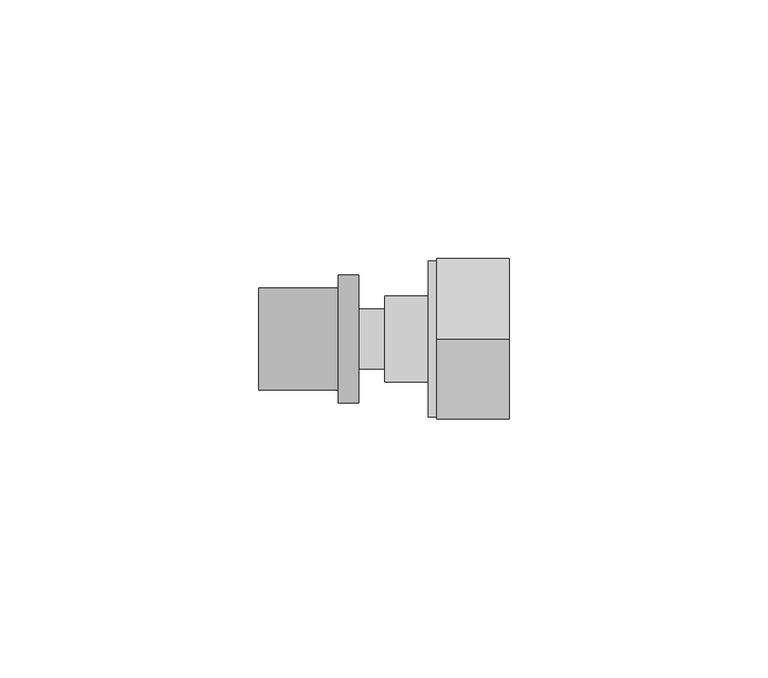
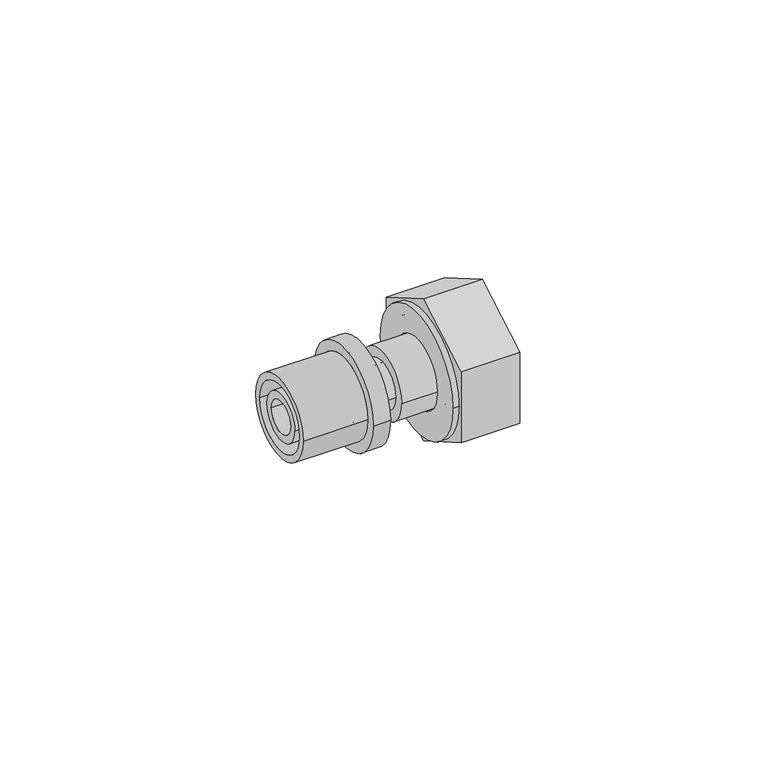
"""IFC4 building model written with IfcOpenShell, lengths in millimetres: pipe fitting geometry, FASTLOC_Adapter with union nut EX+ : FSL A union nut EX+ AT."""

from ifc_helpers import new_model, si_unit, point, frame, origin, origin_2d, place, context, project, spatial, polyline, circle_curve, trimmed, segment, composite_curve, outline, extrude, source, transform, mapped, element, save
from ifc_brep_helpers import plane_surface, cylinder_surface, revolved_surface, advanced_brep


def pipe_fitting_8e6c19f7(model_context):
    return source(origin(), model_context, "Body", "SolidModel", [
        advanced_brep(
        [(-9.0, -12.35, 0.0), (-9.0, 12.35, 0.0), (-5.0, 12.35, 0.0), (-5.0, -12.35, 0.0), (-24.3, -9.85, 0.0), (-24.3, 9.85, 0.0), (-9.0, 9.85, 0.0), (-9.0, -9.85, 0.0), (-5.0, -8.15, 0.0), (-5.0, 8.15, 0.0), (-24.3, 8.15, 0.0), (-24.3, -8.15, 0.0)],
        [
            (0, 1, circle_curve(frame((-9.0, 0.0, 0.0), z_axis=(1.0, 0.0, 0.0), x_axis=(0.0, 1.0, 0.0)), 12.35)),
            (1, 2),
            (2, 3, circle_curve(frame((-5.0, 0.0, 0.0), z_axis=(-1.0, 0.0, 0.0), x_axis=(0.0, 1.0, 0.0)), 12.35)),
            (3, 0),
            (4, 5, circle_curve(frame((-24.3, 0.0, 0.0), z_axis=(1.0, 0.0, 0.0), x_axis=(0.0, 1.0, 0.0)), 9.85)),
            (5, 6),
            (6, 7, circle_curve(frame((-9.0, 0.0, 0.0), z_axis=(-1.0, 0.0, 0.0), x_axis=(0.0, 1.0, 0.0)), 9.85)),
            (7, 4),
            (8, 9, circle_curve(frame((-5.0, 0.0, 0.0), z_axis=(1.0, 0.0, 0.0), x_axis=(0.0, 1.0, 0.0)), 8.15)),
            (9, 10),
            (10, 11, circle_curve(frame((-24.3, 0.0, 0.0), z_axis=(-1.0, 0.0, 0.0), x_axis=(0.0, 1.0, 0.0)), 8.15)),
            (11, 8),
            (1, 0, circle_curve(frame((-9.0, 0.0, 0.0), z_axis=(1.0, 0.0, 0.0), x_axis=(0.0, -1.0, 0.0)), 12.35)),
            (3, 2, circle_curve(frame((-5.0, 0.0, 0.0), z_axis=(-1.0, 0.0, 0.0), x_axis=(0.0, -1.0, 0.0)), 12.35)),
            (6, 7, circle_curve(frame((-9.0, 0.0, 0.0), z_axis=(1.0, 0.0, 0.0), x_axis=(0.0, -1.0, 0.0)), 9.85)),
            (5, 4, circle_curve(frame((-24.3, 0.0, 0.0), z_axis=(1.0, 0.0, 0.0), x_axis=(0.0, -1.0, 0.0)), 9.85)),
            (10, 11, circle_curve(frame((-24.3, 0.0, 0.0), z_axis=(1.0, 0.0, 0.0), x_axis=(0.0, -1.0, 0.0)), 8.15)),
            (9, 8, circle_curve(frame((-5.0, 0.0, 0.0), z_axis=(1.0, 0.0, 0.0), x_axis=(0.0, -1.0, 0.0)), 8.15)),
        ],
        [
            cylinder_surface(frame((-5.0, 0.0, 0.0), z_axis=(-1.0, 0.0, 0.0), x_axis=(0.0, 1.0, 0.0)), 12.35),
            cylinder_surface(frame((-5.0, 0.0, 0.0), z_axis=(-1.0, 0.0, 0.0), x_axis=(0.0, 1.0, 0.0)), 9.85),
            revolved_surface(polyline([(-24.3, 8.15, 0.0), (-5.0, 8.15, 0.0)]), (-5.0, 0.0, 0.0), (-1.0, 0.0, 0.0)),
            cylinder_surface(frame((-5.0, 0.0, 0.0), z_axis=(-1.0, 0.0, 0.0), x_axis=(0.0, -1.0, 0.0)), 12.35),
            plane_surface(frame((-9.0, 0.0, 0.0), z_axis=(-1.0, 0.0, 0.0), x_axis=(0.0, -1.0, 0.0))),
            cylinder_surface(frame((-5.0, 0.0, 0.0), z_axis=(-1.0, 0.0, 0.0), x_axis=(0.0, -1.0, 0.0)), 9.85),
            plane_surface(frame((-24.3, 0.0, 0.0), z_axis=(-1.0, 0.0, 0.0), x_axis=(0.0, -1.0, 0.0))),
            revolved_surface(polyline([(-24.3, -8.15, 0.0), (-5.0, -8.15, 0.0)]), (-5.0, 0.0, 0.0), (-1.0, 0.0, 0.0)),
            plane_surface(frame((-5.0, 0.0, 0.0), z_axis=(1.0, 0.0, 0.0), x_axis=(0.0, -1.0, 0.0))),
        ],
        [
            (0, [[1, 2, 3, 4]]),
            (1, [[5, 6, 7, 8]]),
            (2, [[9, 10, 11, 12]]),
            (3, [[13, -4, 14, -2]]),
            (4, [[-13, -1], [15, -7]]),
            (5, [[16, -8, -15, -6]]),
            (6, [[-16, -5], [17, -11]]),
            (7, [[18, -12, -17, -10]]),
            (8, [[-14, -3], [-18, -9]]),
        ],
    ),
        advanced_brep(
        [(-9.0, 5.8, 0.0), (-9.0, -5.8, 0.0), (-24.0, -5.8, 0.0), (-24.0, 5.8, 0.0), (-6.3, 6.9, 0.0), (-6.3, -6.9, 0.0), (-9.0, -6.9, 0.0), (-9.0, 6.9, 0.0), (0.0, 5.8, 0.0), (0.0, -5.8, 0.0), (-6.3, -5.8, 0.0), (-6.3, 5.8, 0.0), (-24.0, 3.95, 0.0), (-24.0, -3.95, 0.0), (0.0, -3.95, 0.0), (0.0, 3.95, 0.0)],
        [
            (0, 1, circle_curve(frame((-9.0, 0.0, 0.0), z_axis=(-1.0, 0.0, 0.0), x_axis=(0.0, -1.0, 0.0)), 5.8)),
            (1, 2),
            (2, 3, circle_curve(frame((-24.0, 0.0, 0.0), z_axis=(1.0, 0.0, 0.0), x_axis=(0.0, -1.0, 0.0)), 5.8)),
            (3, 0),
            (4, 5, circle_curve(frame((-6.3, 0.0, 0.0), z_axis=(-1.0, 0.0, 0.0), x_axis=(0.0, -1.0, 0.0)), 6.9)),
            (5, 6),
            (6, 7, circle_curve(frame((-9.0, 0.0, 0.0), z_axis=(1.0, 0.0, 0.0), x_axis=(0.0, -1.0, 0.0)), 6.9)),
            (7, 4),
            (8, 9, circle_curve(frame((0.0, 0.0, 0.0), z_axis=(-1.0, 0.0, 0.0), x_axis=(0.0, -1.0, 0.0)), 5.8)),
            (9, 10),
            (10, 11, circle_curve(frame((-6.3, 0.0, 0.0), z_axis=(1.0, 0.0, 0.0), x_axis=(0.0, -1.0, 0.0)), 5.8)),
            (11, 8),
            (12, 13, circle_curve(frame((-24.0, 0.0, 0.0), z_axis=(-1.0, 0.0, 0.0), x_axis=(0.0, -1.0, 0.0)), 3.95)),
            (13, 14),
            (14, 15, circle_curve(frame((0.0, 0.0, 0.0), z_axis=(1.0, 0.0, 0.0), x_axis=(0.0, -1.0, 0.0)), 3.95)),
            (15, 12),
            (2, 3, circle_curve(frame((-24.0, 0.0, 0.0), z_axis=(-1.0, 0.0, 0.0), x_axis=(0.0, 1.0, 0.0)), 5.8)),
            (12, 13, circle_curve(frame((-24.0, 0.0, 0.0), z_axis=(1.0, 0.0, 0.0), x_axis=(0.0, 1.0, 0.0)), 3.95)),
            (1, 0, circle_curve(frame((-9.0, 0.0, 0.0), z_axis=(-1.0, 0.0, 0.0), x_axis=(0.0, 1.0, 0.0)), 5.8)),
            (6, 7, circle_curve(frame((-9.0, 0.0, 0.0), z_axis=(-1.0, 0.0, 0.0), x_axis=(0.0, 1.0, 0.0)), 6.9)),
            (5, 4, circle_curve(frame((-6.3, 0.0, 0.0), z_axis=(-1.0, 0.0, 0.0), x_axis=(0.0, 1.0, 0.0)), 6.9)),
            (10, 11, circle_curve(frame((-6.3, 0.0, 0.0), z_axis=(-1.0, 0.0, 0.0), x_axis=(0.0, 1.0, 0.0)), 5.8)),
            (9, 8, circle_curve(frame((0.0, 0.0, 0.0), z_axis=(-1.0, 0.0, 0.0), x_axis=(0.0, 1.0, 0.0)), 5.8)),
            (14, 15, circle_curve(frame((0.0, 0.0, 0.0), z_axis=(-1.0, 0.0, 0.0), x_axis=(0.0, 1.0, 0.0)), 3.95)),
        ],
        [
            cylinder_surface(frame((0.0, 0.0, 0.0), z_axis=(1.0, 0.0, 0.0), x_axis=(0.0, -1.0, 0.0)), 5.8),
            cylinder_surface(frame((0.0, 0.0, 0.0), z_axis=(1.0, 0.0, 0.0), x_axis=(0.0, -1.0, 0.0)), 6.9),
            revolved_surface(polyline([(0.0, -3.95, 0.0), (-24.0, -3.95, 0.0)]), (0.0, 0.0, 0.0), (1.0, 0.0, 0.0)),
            plane_surface(frame((-24.0, 0.0, 0.0), z_axis=(-1.0, 0.0, 0.0), x_axis=(0.0, 1.0, 0.0))),
            cylinder_surface(frame((0.0, 0.0, 0.0), z_axis=(1.0, 0.0, 0.0), x_axis=(0.0, 1.0, 0.0)), 5.8),
            plane_surface(frame((-9.0, 0.0, 0.0), z_axis=(-1.0, 0.0, 0.0), x_axis=(0.0, 1.0, 0.0))),
            cylinder_surface(frame((0.0, 0.0, 0.0), z_axis=(1.0, 0.0, 0.0), x_axis=(0.0, 1.0, 0.0)), 6.9),
            plane_surface(frame((-6.3, 0.0, 0.0), z_axis=(1.0, 0.0, 0.0), x_axis=(0.0, 1.0, 0.0))),
            plane_surface(frame((0.0, 0.0, 0.0), z_axis=(1.0, 0.0, 0.0), x_axis=(0.0, 1.0, 0.0))),
            revolved_surface(polyline([(0.0, 3.95, 0.0), (-24.0, 3.95, 0.0)]), (0.0, 0.0, 0.0), (1.0, 0.0, 0.0)),
        ],
        [
            (0, [[1, 2, 3, 4]]),
            (1, [[5, 6, 7, 8]]),
            (0, [[9, 10, 11, 12]]),
            (2, [[13, 14, 15, 16]]),
            (3, [[17, -3], [18, -13]]),
            (4, [[19, -4, -17, -2]]),
            (5, [[20, -7], [-19, -1]]),
            (6, [[21, -8, -20, -6]]),
            (7, [[-21, -5], [22, -11]]),
            (4, [[23, -12, -22, -10]]),
            (8, [[-23, -9], [24, -15]]),
            (9, [[-18, -16, -24, -14]]),
        ],
    ),
        extrude(outline(polyline([(0.0, -17.8978583), (-15.5, -8.9489292), (-15.5, 8.9489292), (0.0, 17.8978583), (15.5, 8.9489292), (15.5, -8.9489292), (0.0, -17.8978583)]), holes=[composite_curve([segment(trimmed(circle_curve(origin_2d(), 12.1), [point((-12.1, 0.0))], [point((12.1, 0.0))], True, "CARTESIAN"), True, "CONTINUOUS"), segment(trimmed(circle_curve(origin_2d(), 12.1), [point((12.1, 0.0))], [point((-12.1, 0.0))], True, "CARTESIAN"), True, "CONTINUOUS")], self_intersect=False)]), frame((10.0, 0.0, 0.0), z_axis=(1.0, 0.0, 0.0), x_axis=(0.0, 1.0, 0.0)), (0.0, 0.0, 1.0), 14.0),
        advanced_brep(
        [(24.0, 15.1, 0.0), (24.0, -15.1, 0.0), (8.4, -15.1, 0.0), (8.4, 15.1, 0.0), (12.0, 12.1, 0.0), (12.0, -12.1, 0.0), (24.0, -12.1, 0.0), (24.0, 12.1, 0.0), (8.4, 8.5, 0.0), (8.4, -8.5, 0.0), (12.0, -8.5, 0.0), (12.0, 8.5, 0.0)],
        [
            (0, 1, circle_curve(frame((24.0, 0.0, 0.0), z_axis=(-1.0, 0.0, 0.0), x_axis=(0.0, -1.0, 0.0)), 15.1)),
            (1, 2),
            (2, 3, circle_curve(frame((8.4, 0.0, 0.0), z_axis=(1.0, 0.0, 0.0), x_axis=(0.0, -1.0, 0.0)), 15.1)),
            (3, 0),
            (4, 5, circle_curve(frame((12.0, 0.0, 0.0), z_axis=(-1.0, 0.0, 0.0), x_axis=(0.0, -1.0, 0.0)), 12.1)),
            (5, 6),
            (6, 7, circle_curve(frame((24.0, 0.0, 0.0), z_axis=(1.0, 0.0, 0.0), x_axis=(0.0, -1.0, 0.0)), 12.1)),
            (7, 4),
            (8, 9, circle_curve(frame((8.4, 0.0, 0.0), z_axis=(-1.0, 0.0, 0.0), x_axis=(0.0, -1.0, 0.0)), 8.5)),
            (9, 10),
            (10, 11, circle_curve(frame((12.0, 0.0, 0.0), z_axis=(1.0, 0.0, 0.0), x_axis=(0.0, -1.0, 0.0)), 8.5)),
            (11, 8),
            (1, 0, circle_curve(frame((24.0, 0.0, 0.0), z_axis=(-1.0, 0.0, 0.0), x_axis=(0.0, 1.0, 0.0)), 15.1)),
            (3, 2, circle_curve(frame((8.4, 0.0, 0.0), z_axis=(1.0, 0.0, 0.0), x_axis=(0.0, 1.0, 0.0)), 15.1)),
            (6, 7, circle_curve(frame((24.0, 0.0, 0.0), z_axis=(-1.0, 0.0, 0.0), x_axis=(0.0, 1.0, 0.0)), 12.1)),
            (5, 4, circle_curve(frame((12.0, 0.0, 0.0), z_axis=(-1.0, 0.0, 0.0), x_axis=(0.0, 1.0, 0.0)), 12.1)),
            (10, 11, circle_curve(frame((12.0, 0.0, 0.0), z_axis=(-1.0, 0.0, 0.0), x_axis=(0.0, 1.0, 0.0)), 8.5)),
            (9, 8, circle_curve(frame((8.4, 0.0, 0.0), z_axis=(-1.0, 0.0, 0.0), x_axis=(0.0, 1.0, 0.0)), 8.5)),
        ],
        [
            cylinder_surface(frame((0.0, 0.0, 0.0), z_axis=(1.0, 0.0, 0.0), x_axis=(0.0, -1.0, 0.0)), 15.1),
            revolved_surface(polyline([(24.0, -12.1, 0.0), (12.0, -12.1, 0.0)]), (0.0, 0.0, 0.0), (1.0, 0.0, 0.0)),
            revolved_surface(polyline([(12.0, -8.5, 0.0), (8.4, -8.5, 0.0)]), (0.0, 0.0, 0.0), (1.0, 0.0, 0.0)),
            cylinder_surface(frame((0.0, 0.0, 0.0), z_axis=(1.0, 0.0, 0.0), x_axis=(0.0, 1.0, 0.0)), 15.1),
            plane_surface(frame((24.0, 0.0, 0.0), z_axis=(1.0, 0.0, 0.0), x_axis=(0.0, 1.0, 0.0))),
            revolved_surface(polyline([(24.0, 12.1, 0.0), (12.0, 12.1, 0.0)]), (0.0, 0.0, 0.0), (1.0, 0.0, 0.0)),
            plane_surface(frame((12.0, 0.0, 0.0), z_axis=(1.0, 0.0, 0.0), x_axis=(0.0, 1.0, 0.0))),
            revolved_surface(polyline([(12.0, 8.5, 0.0), (8.4, 8.5, 0.0)]), (0.0, 0.0, 0.0), (1.0, 0.0, 0.0)),
            plane_surface(frame((8.4, 0.0, 0.0), z_axis=(-1.0, 0.0, 0.0), x_axis=(0.0, 1.0, 0.0))),
        ],
        [
            (0, [[1, 2, 3, 4]]),
            (1, [[5, 6, 7, 8]]),
            (2, [[9, 10, 11, 12]]),
            (3, [[13, -4, 14, -2]]),
            (4, [[-13, -1], [15, -7]]),
            (5, [[16, -8, -15, -6]]),
            (6, [[-16, -5], [17, -11]]),
            (7, [[18, -12, -17, -10]]),
            (8, [[-14, -3], [-18, -9]]),
        ],
    ),
        advanced_brep(
        [(12.0, 8.275, 0.0), (12.0, -8.275, 0.0), (0.0, -8.275, 0.0), (0.0, 8.275, 0.0), (13.95, 12.25, 0.0), (13.95, -12.25, 0.0), (12.0, -12.25, 0.0), (12.0, 12.25, 0.0), (1.4730817, 6.25, 0.0), (1.4730817, -6.25, 0.0), (13.95, -6.25, 0.0), (13.95, 6.25, 0.0), (0.0, 4.0764556, 0.0), (0.0, -4.0764556, 0.0), (1.4730817, -4.0764556, 0.0), (1.4730817, 4.0764556, 0.0)],
        [
            (0, 1, circle_curve(frame((12.0, 0.0, 0.0), z_axis=(-1.0, 0.0, 0.0), x_axis=(0.0, -1.0, 0.0)), 8.275)),
            (1, 2),
            (2, 3, circle_curve(frame((0.0, 0.0, 0.0), z_axis=(1.0, 0.0, 0.0), x_axis=(0.0, -1.0, 0.0)), 8.275)),
            (3, 0),
            (4, 5, circle_curve(frame((13.95, 0.0, 0.0), z_axis=(-1.0, 0.0, 0.0), x_axis=(0.0, -1.0, 0.0)), 12.25)),
            (5, 6),
            (6, 7, circle_curve(frame((12.0, 0.0, 0.0), z_axis=(1.0, 0.0, 0.0), x_axis=(0.0, -1.0, 0.0)), 12.25)),
            (7, 4),
            (8, 9, circle_curve(frame((1.4730817, 0.0, 0.0), z_axis=(-1.0, 0.0, 0.0), x_axis=(0.0, -1.0, 0.0)), 6.25)),
            (9, 10),
            (10, 11, circle_curve(frame((13.95, 0.0, 0.0), z_axis=(1.0, 0.0, 0.0), x_axis=(0.0, -1.0, 0.0)), 6.25)),
            (11, 8),
            (12, 13, circle_curve(frame((0.0, 0.0, 0.0), z_axis=(-1.0, 0.0, 0.0), x_axis=(0.0, -1.0, 0.0)), 4.0764556)),
            (13, 14),
            (14, 15, circle_curve(frame((1.4730817, 0.0, 0.0), z_axis=(1.0, 0.0, 0.0), x_axis=(0.0, -1.0, 0.0)), 4.0764556)),
            (15, 12),
            (2, 3, circle_curve(frame((0.0, 0.0, 0.0), z_axis=(-1.0, 0.0, 0.0), x_axis=(0.0, 1.0, 0.0)), 8.275)),
            (12, 13, circle_curve(frame((0.0, 0.0, 0.0), z_axis=(1.0, 0.0, 0.0), x_axis=(0.0, 1.0, 0.0)), 4.0764556)),
            (1, 0, circle_curve(frame((12.0, 0.0, 0.0), z_axis=(-1.0, 0.0, 0.0), x_axis=(0.0, 1.0, 0.0)), 8.275)),
            (6, 7, circle_curve(frame((12.0, 0.0, 0.0), z_axis=(-1.0, 0.0, 0.0), x_axis=(0.0, 1.0, 0.0)), 12.25)),
            (5, 4, circle_curve(frame((13.95, 0.0, 0.0), z_axis=(-1.0, 0.0, 0.0), x_axis=(0.0, 1.0, 0.0)), 12.25)),
            (10, 11, circle_curve(frame((13.95, 0.0, 0.0), z_axis=(-1.0, 0.0, 0.0), x_axis=(0.0, 1.0, 0.0)), 6.25)),
            (9, 8, circle_curve(frame((1.4730817, 0.0, 0.0), z_axis=(-1.0, 0.0, 0.0), x_axis=(0.0, 1.0, 0.0)), 6.25)),
            (14, 15, circle_curve(frame((1.4730817, 0.0, 0.0), z_axis=(-1.0, 0.0, 0.0), x_axis=(0.0, 1.0, 0.0)), 4.0764556)),
        ],
        [
            cylinder_surface(frame((0.0, 0.0, 0.0), z_axis=(1.0, 0.0, 0.0), x_axis=(0.0, -1.0, 0.0)), 8.275),
            cylinder_surface(frame((0.0, 0.0, 0.0), z_axis=(1.0, 0.0, 0.0), x_axis=(0.0, -1.0, 0.0)), 12.25),
            revolved_surface(polyline([(13.95, -6.25, 0.0), (1.4730817, -6.25, 0.0)]), (0.0, 0.0, 0.0), (1.0, 0.0, 0.0)),
            revolved_surface(polyline([(1.4730817, -4.0764556, 0.0), (0.0, -4.0764556, 0.0)]), (0.0, 0.0, 0.0), (1.0, 0.0, 0.0)),
            plane_surface(frame((0.0, 0.0, 0.0), z_axis=(-1.0, 0.0, 0.0), x_axis=(0.0, 1.0, 0.0))),
            cylinder_surface(frame((0.0, 0.0, 0.0), z_axis=(1.0, 0.0, 0.0), x_axis=(0.0, 1.0, 0.0)), 8.275),
            plane_surface(frame((12.0, 0.0, 0.0), z_axis=(-1.0, 0.0, 0.0), x_axis=(0.0, 1.0, 0.0))),
            cylinder_surface(frame((0.0, 0.0, 0.0), z_axis=(1.0, 0.0, 0.0), x_axis=(0.0, 1.0, 0.0)), 12.25),
            plane_surface(frame((13.95, 0.0, 0.0), z_axis=(1.0, 0.0, 0.0), x_axis=(0.0, 1.0, 0.0))),
            revolved_surface(polyline([(13.95, 6.25, 0.0), (1.4730817, 6.25, 0.0)]), (0.0, 0.0, 0.0), (1.0, 0.0, 0.0)),
            plane_surface(frame((1.4730817, 0.0, 0.0), z_axis=(1.0, 0.0, 0.0), x_axis=(0.0, 1.0, 0.0))),
            revolved_surface(polyline([(1.4730817, 4.0764556, 0.0), (0.0, 4.0764556, 0.0)]), (0.0, 0.0, 0.0), (1.0, 0.0, 0.0)),
        ],
        [
            (0, [[1, 2, 3, 4]]),
            (1, [[5, 6, 7, 8]]),
            (2, [[9, 10, 11, 12]]),
            (3, [[13, 14, 15, 16]]),
            (4, [[17, -3], [18, -13]]),
            (5, [[19, -4, -17, -2]]),
            (6, [[20, -7], [-19, -1]]),
            (7, [[21, -8, -20, -6]]),
            (8, [[-21, -5], [22, -11]]),
            (9, [[23, -12, -22, -10]]),
            (10, [[-23, -9], [24, -15]]),
            (11, [[-18, -16, -24, -14]]),
        ],
    ),
    ])


if __name__ == "__main__":
    model = new_model("IFC4")
    model_context = context("Model", 3, world=origin())
    ifc_project = project(units=[si_unit("LENGTHUNIT", "METRE", prefix="MILLI")], contexts=[model_context])
    site = spatial("IfcSite", under=ifc_project)
    building = spatial("IfcBuilding", under=site)
    placement = place(None, origin())
    pipe_fitting_shape = pipe_fitting_8e6c19f7(model_context)
    element("IfcPipeFitting", 1, ObjectType="FASTLOC_Adapter with union nut EX+ : FSL A union nut EX+ AT", at=placement, inside=building, context=model_context, shape_type="MappedRepresentation", body=[
        mapped(pipe_fitting_shape, transform((0.0, 0.0, 0.0), x_axis=(1.0, 0.0, 0.0), y_axis=(0.0, 1.0, 0.0), z_axis=(0.0, 0.0, 1.0))),
    ])
    save(model, "model.ifc")
